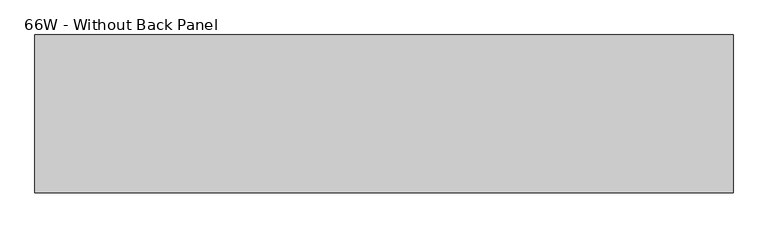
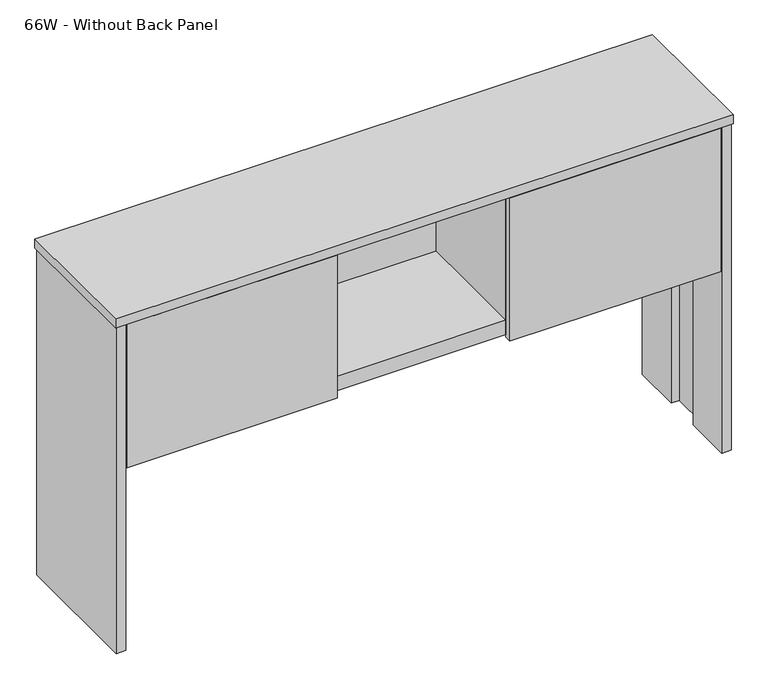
"""IFC4 building model written with IfcOpenShell, lengths in millimetres: furniture geometry, Steelcase - Kick Freestanding - Overhead Storage Cabinet With Hinge Door : 66W - Without Back Panel."""

import ifcopenshell
import ifcopenshell.guid

model = None  # the IFC model being written
_history = None  # IfcOwnerHistory: only IFC2X3 demands one
_inside = {}  # id of a spatial element -> (the spatial element, [elements in it])
_under = {}  # id of a project, library or spatial element -> (it, [spatial elements below it])
_declared = {}  # id of a project -> (the project, [libraries it declares])
_typed = {}  # id of a type object -> (the type object, [elements of that type])
_made_of = {}  # id of a material, layer set ... -> (it, [elements and type objects made of it])


def new_model(schema):
    """Start an empty IFC model of exactly this schema.

    Asked for "IFC4X3", IfcOpenShell would pick the latest addendum, in which some entities
    have other attributes; the version numbers below select the first issue.
    IFC2X3 requires an IfcOwnerHistory on every rooted entity: one is made here for all.
    """
    global model, _history
    if schema == "IFC4X3":
        model = ifcopenshell.file(schema_version=(4, 3, 0, 0))
    else:
        model = ifcopenshell.file(schema=schema)
    _inside.clear()
    _under.clear()
    _declared.clear()
    _typed.clear()
    _made_of.clear()
    _history = None
    if model.schema == "IFC2X3":
        org = make("IfcOrganization", Name="unknown")
        user = make(
            "IfcPersonAndOrganization",
            ThePerson=make("IfcPerson", FamilyName="unknown"),
            TheOrganization=org,
        )
        app = make(
            "IfcApplication",
            ApplicationDeveloper=org,
            Version="unknown",
            ApplicationFullName="unknown",
            ApplicationIdentifier="unknown",
        )
        _history = make(
            "IfcOwnerHistory",
            OwningUser=user,
            OwningApplication=app,
            ChangeAction="ADDED",
            CreationDate=0,
        )
    return model


def make(cls, **values):
    """One entity of the class cls with the attributes given. An attribute that is None is left unset."""
    return model.create_entity(
        cls, **{name: value for name, value in values.items() if value is not None}
    )


def rooted(cls, **values):
    """An entity with a GlobalId (a new one), such as an element, a storey or a relation."""
    return make(cls, GlobalId=ifcopenshell.guid.new(), OwnerHistory=_history, **values)


def si_unit(unit_type, name, prefix=None):
    """IfcSIUnit, for example si_unit("LENGTHUNIT", "METRE", prefix="MILLI")."""
    return make("IfcSIUnit", UnitType=unit_type, Prefix=prefix, Name=name)


def assignment(units):
    """IfcUnitAssignment: the units of a project."""
    return None if units is None else make("IfcUnitAssignment", Units=units)


def point(xyz):
    """IfcCartesianPoint."""
    return None if xyz is None else make("IfcCartesianPoint", Coordinates=xyz)


def direction(xyz):
    """IfcDirection."""
    return None if xyz is None else make("IfcDirection", DirectionRatios=xyz)


def frame(location, z_axis=None, x_axis=None):
    """IfcAxis2Placement3D, a coordinate frame: its origin and axes. An axis left out is left unset."""
    return make(
        "IfcAxis2Placement3D",
        Location=point(location),
        Axis=direction(z_axis),
        RefDirection=direction(x_axis),
    )


def origin():
    """The frame at (0, 0, 0) with its axes left unset."""
    return frame((0.0, 0.0, 0.0))


def place(relative_to, where):
    """IfcLocalPlacement: puts the frame where relative to a parent placement (None: the world)."""
    return make(
        "IfcLocalPlacement", PlacementRelTo=relative_to, RelativePlacement=where
    )


def context(
    kind, dimensions, precision=None, world=None, true_north=None, identifier=None
):
    """IfcGeometricRepresentationContext, for example the 3D "Model" context."""
    return make(
        "IfcGeometricRepresentationContext",
        ContextIdentifier=identifier,
        ContextType=kind,
        CoordinateSpaceDimension=dimensions,
        Precision=precision,
        WorldCoordinateSystem=world,
        TrueNorth=true_north,
    )


def project(units=None, contexts=None):
    """IfcProject with its units and contexts."""
    return rooted(
        "IfcProject",
        Name="project",
        RepresentationContexts=contexts,
        UnitsInContext=assignment(units),
    )


def spatial(cls, under=None, at=None, **own):
    """A site, building, storey or space (cls), placed at a placement, below another one or the project."""
    s = rooted(cls, ObjectPlacement=at, **own)
    if under is not None:
        _under.setdefault(under.id(), (under, []))[1].append(s)
    return s


def polyline(points):
    """IfcPolyline through the points."""
    return make("IfcPolyline", Points=[point(p) for p in points])


def outline(outer, holes=None, kind="AREA"):
    """IfcArbitraryClosedProfileDef: a profile drawn as a closed curve; with holes, ...WithVoids."""
    if holes is None:
        return make("IfcArbitraryClosedProfileDef", ProfileType=kind, OuterCurve=outer)
    return make(
        "IfcArbitraryProfileDefWithVoids",
        ProfileType=kind,
        OuterCurve=outer,
        InnerCurves=holes,
    )


def extrude(swept, where, along, depth):
    """IfcExtrudedAreaSolid: the profile swept, set in the frame where, extruded along a direction by depth."""
    return make(
        "IfcExtrudedAreaSolid",
        SweptArea=swept,
        Position=where,
        ExtrudedDirection=direction(along),
        Depth=depth,
    )


def shape(context_of_items, identifier, shape_type, items):
    """IfcShapeRepresentation: the items that make up one representation, for example the "Body"."""
    return make(
        "IfcShapeRepresentation",
        ContextOfItems=context_of_items,
        RepresentationIdentifier=identifier,
        RepresentationType=shape_type,
        Items=items,
    )


def source(mapping_origin, context_of_items, identifier, shape_type, items):
    """IfcRepresentationMap: a shape defined once, which mapped items show again and again."""
    return make(
        "IfcRepresentationMap",
        MappingOrigin=mapping_origin,
        MappedRepresentation=shape(context_of_items, identifier, shape_type, items),
    )


def transform(
    local_origin,
    x_axis=None,
    y_axis=None,
    z_axis=None,
    scale=None,
    scale2=None,
    scale3=None,
    uniform=True,
):
    """IfcCartesianTransformationOperator3D, or its non-uniform kind. x_axis, y_axis, z_axis: its Axis1, 2, 3."""
    if uniform:
        return make(
            "IfcCartesianTransformationOperator3D",
            Axis1=direction(x_axis),
            Axis2=direction(y_axis),
            LocalOrigin=point(local_origin),
            Scale=scale,
            Axis3=direction(z_axis),
        )
    return make(
        "IfcCartesianTransformationOperator3DnonUniform",
        Axis1=direction(x_axis),
        Axis2=direction(y_axis),
        LocalOrigin=point(local_origin),
        Scale=scale,
        Axis3=direction(z_axis),
        Scale2=scale2,
        Scale3=scale3,
    )


def mapped(mapping_source, mapping_target):
    """IfcMappedItem: shows the shape of a source again, moved by a transform."""
    return make(
        "IfcMappedItem", MappingSource=mapping_source, MappingTarget=mapping_target
    )


def made_of(thing, what):
    """Note that an element or type object is made of a material, layer set ...; save() writes the relation."""
    if what is not None:
        _made_of.setdefault(what.id(), (what, []))[1].append(thing)
    return thing


def element(
    cls,
    number,
    at=None,
    inside=None,
    cuts=None,
    type_object=None,
    material=None,
    context=None,
    identifier="Body",
    shape_type=None,
    held_by="IfcProductDefinitionShape",
    body=None,
    shapes=None,
    **own,
):
    """One element of the class cls, such as IfcWall. Its Tag is "e" and its number.

    at: its placement. inside: the storey or other place that contains it. cuts: it is an
    opening in that element (IfcRelVoidsElement). A single representation is given by context,
    identifier, shape_type and body (its items); several are given by shapes. held_by: the class
    of the entity that holds the representations. save() writes the other relations.
    """
    e = rooted(cls, Tag="e%d" % number, ObjectPlacement=at, **own)
    if body is not None:
        shapes = [shape(context, identifier, shape_type, body)]
    if shapes is not None:
        e.Representation = make(held_by, Representations=shapes)
    if inside is not None:
        _inside.setdefault(inside.id(), (inside, []))[1].append(e)
    if cuts is not None:
        rooted(
            "IfcRelVoidsElement", RelatingBuildingElement=cuts, RelatedOpeningElement=e
        )
    if type_object is not None:
        _typed.setdefault(type_object.id(), (type_object, []))[1].append(e)
    return made_of(e, material)


def aggregate(whole, parts):
    """IfcRelAggregates: a whole, such as a stair, and the parts it consists of."""
    return rooted("IfcRelAggregates", RelatingObject=whole, RelatedObjects=parts)


def save(model, path):
    """Write the relations noted so far, then the file.

    IfcRelAggregates (storeys below a building ...), IfcRelContainedInSpatialStructure (elements
    in a storey), IfcRelDefinesByType, IfcRelAssociatesMaterial and IfcRelDeclares: one each for
    every whole, place, type object, material and project.
    """
    for whole, parts in _under.values():
        aggregate(whole, parts)
    for where, things in _inside.values():
        rooted(
            "IfcRelContainedInSpatialStructure",
            RelatedElements=things,
            RelatingStructure=where,
        )
    for kind, things in _typed.values():
        rooted("IfcRelDefinesByType", RelatedObjects=things, RelatingType=kind)
    for what, things in _made_of.values():
        rooted("IfcRelAssociatesMaterial", RelatedObjects=things, RelatingMaterial=what)
    for by, libraries in _declared.values():
        rooted("IfcRelDeclares", RelatingContext=by, RelatedDefinitions=libraries)
    model.write(path)


def furniture_66w_without_back_panel_458d9cb5(model_context):
    return source(origin(), model_context, "Body", "SweptSolid", [
        extrude(outline(polyline([(606.2138992, -377.8250114), (593.5138992, -377.8250114), (593.5138992, -53.9789719), (606.2138992, -53.9789719), (606.2138992, -377.8250114)])), frame((0.0, 0.0, 1018.943073), z_axis=(0.0, 0.0, 1.0), x_axis=(1.0, 0.0, 0.0)), (0.0, 0.0, 1.0), 403.225),
        extrude(outline(polyline([(1069.7638992, -377.8250114), (1069.7638992, -53.9789719), (1082.4638992, -53.9789719), (1082.4638992, -377.8250114), (1069.7638992, -377.8250114)])), frame((0.0, 0.0, 1018.943073), z_axis=(0.0, 0.0, 1.0), x_axis=(1.0, 0.0, 0.0)), (0.0, 0.0, 1.0), 403.225),
        extrude(outline(polyline([(1637.9618992, -28.5781763), (1663.4872195, -28.5781763), (1663.4872195, -396.8781725), (1637.9618992, -396.8781725), (1637.9618992, -263.5281725), (1660.3122191, -263.5281725), (1660.3122191, -161.9281786), (1637.9618992, -161.9281786), (1637.9618992, -28.5781763)])), frame((0.0, 0.0, 495.068073), z_axis=(0.0, 0.0, 1.0), x_axis=(1.0, 0.0, 0.0)), (0.0, 0.0, 1.0), 927.1),
        extrude(outline(polyline([(1069.7638992, -377.8250114), (1634.9126896, -377.8250114), (1634.9126896, -396.8750114), (1069.7638992, -396.8750114), (1069.7638992, -377.8250114)])), frame((0.0, 0.0, 1012.5930246), z_axis=(0.0, 0.0, 1.0), x_axis=(1.0, 0.0, 0.0)), (0.0, 0.0, 1.0), 406.4000484),
        extrude(outline(polyline([(1069.7639098, -377.8250114), (606.2138992, -377.8250114), (606.2138992, -53.9789719), (1069.7639098, -53.9789719), (1069.7639098, -377.8250114)])), frame((0.0, 0.0, 1018.943073), z_axis=(0.0, 0.0, 1.0), x_axis=(1.0, 0.0, 0.0)), (0.0, 0.0, 1.0), 41.2749516),
        extrude(outline(polyline([(606.2138992, -377.8250114), (606.2138992, -396.8750114), (41.0639007, -396.8750114), (41.0639007, -377.8250114), (606.2138992, -377.8250114)])), frame((0.0, 0.0, 1012.5930246), z_axis=(0.0, 0.0, 1.0), x_axis=(1.0, 0.0, 0.0)), (0.0, 0.0, 1.0), 406.4000484),
        extrude(outline(polyline([(1637.9618992, -53.9789719), (38.0158992, -53.9789719), (38.0158992, -28.5789734), (1637.9618992, -28.5789734), (1637.9618992, -53.9789719)])), frame((0.0, 0.0, 1012.720073), z_axis=(0.0, 0.0, 1.0), x_axis=(1.0, 0.0, 0.0)), (0.0, 0.0, 1.0), 409.448),
        extrude(outline(polyline([(38.0158992, -28.5781763), (38.0158992, -161.9281786), (15.6638988, -161.9281786), (15.6638988, -263.5281725), (38.0158992, -263.5281725), (38.0158992, -396.8781725), (12.4888985, -396.8781725), (12.4888985, -28.5781763), (38.0158992, -28.5781763)])), frame((0.0, 0.0, 495.068073), z_axis=(0.0, 0.0, 1.0), x_axis=(1.0, 0.0, 0.0)), (0.0, 0.0, 1.0), 927.1),
        extrude(outline(polyline([(1666.6638992, -25.4), (1666.6638992, -400.05), (9.3138992, -400.05), (9.3138992, -25.4), (1666.6638992, -25.4)])), frame((0.0, 0.0, 1422.168073), z_axis=(0.0, 0.0, 1.0), x_axis=(1.0, 0.0, 0.0)), (0.0, 0.0, 1.0), 25.4),
    ])


if __name__ == "__main__":
    model = new_model("IFC4")
    model_context = context("Model", 3, world=origin())
    ifc_project = project(units=[si_unit("LENGTHUNIT", "METRE", prefix="MILLI")], contexts=[model_context])
    site = spatial("IfcSite", under=ifc_project)
    building = spatial("IfcBuilding", under=site)
    placement = place(None, origin())
    furniture_66w_without_back_panel_shape = furniture_66w_without_back_panel_458d9cb5(model_context)
    element("IfcFurniture", 1, ObjectType="Steelcase - Kick Freestanding - Overhead Storage Cabinet With Hinge Door : 66W - Without Back Panel", at=placement, inside=building, context=model_context, shape_type="MappedRepresentation", body=[
        mapped(furniture_66w_without_back_panel_shape, transform((0.0, 0.0, 0.0), x_axis=(1.0, 0.0, 0.0), y_axis=(0.0, 1.0, 0.0), z_axis=(0.0, 0.0, 1.0))),
    ])
    save(model, "model.ifc")
